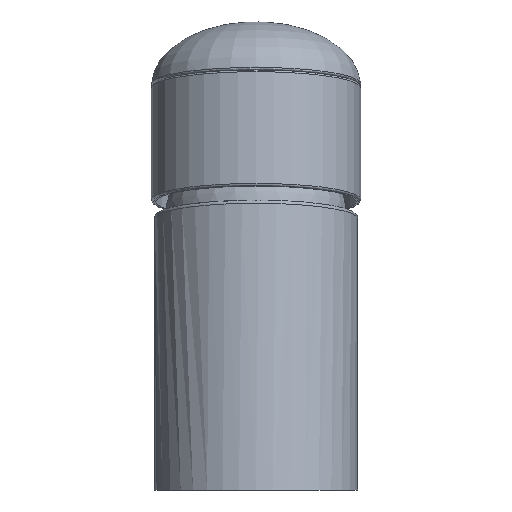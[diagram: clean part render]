
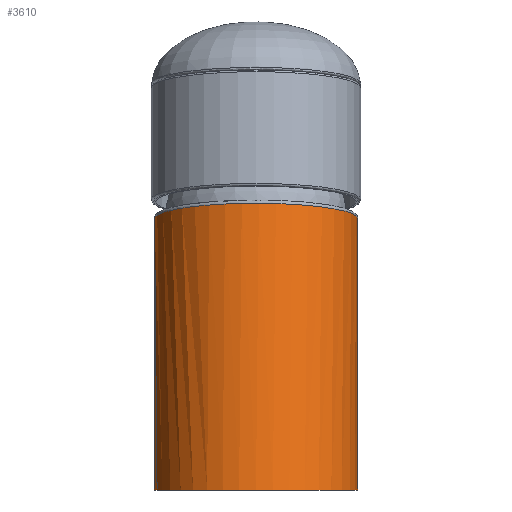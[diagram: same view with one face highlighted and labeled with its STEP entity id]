
A CAD part, left-side view. The second image highlights one B-rep face of the part: STEP entity #3610.
In plain terms, the highlighted free-form (B-spline) face has degree [3, 1] with [10, 2] control points.
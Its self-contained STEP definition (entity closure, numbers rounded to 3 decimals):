
#3610=ADVANCED_FACE('',(#10298),#10300,.T.);
#10298=FACE_BOUND('',#10299,.T.);
#10299=EDGE_LOOP('',(#16178,#16179,#16180,#16181));
#10300=(BOUNDED_SURFACE()B_SPLINE_SURFACE(3,1,(
(#10301,#10302),
(#10303,#10304),
(#10305,#10306),
(#10307,#10308),
(#10309,#10310),
(#10311,#10312),
(#10313,#10314),
(#10315,#10316),
(#10317,#10318),
(#10319,#10320)),
.UNSPECIFIED.,.F.,.F.,.F.)B_SPLINE_SURFACE_WITH_KNOTS((4,3,3,4),
(2,2),
(0.,1.022,2.179,3.336),
(0.,0.775),
.UNSPECIFIED.)GEOMETRIC_REPRESENTATION_ITEM()RATIONAL_B_SPLINE_SURFACE((
(1.,1.),
(1.,1.),
(1.,1.),
(1.,1.),
(0.781,0.781),
(0.781,0.781),
(1.,1.),
(0.781,0.781),
(0.781,0.781),
(1.,1.)))REPRESENTATION_ITEM('')SURFACE());
#10301=CARTESIAN_POINT('',(34.008,21.102,0.));
#10302=CARTESIAN_POINT('',(44.781,21.102,68.459));
#10303=CARTESIAN_POINT('',(23.457,22.13,0.));
#10304=CARTESIAN_POINT('',(34.231,22.13,68.459));
#10305=CARTESIAN_POINT('',(12.907,23.158,0.));
#10306=CARTESIAN_POINT('',(23.68,23.158,68.459));
#10307=CARTESIAN_POINT('',(2.356,24.186,0.));
#10308=CARTESIAN_POINT('',(13.13,24.186,68.459));
#10309=CARTESIAN_POINT('',(-12.927,25.674,0.));
#10310=CARTESIAN_POINT('',(-2.154,25.674,68.459));
#10311=CARTESIAN_POINT('',(-24.3,15.356,0.));
#10312=CARTESIAN_POINT('',(-13.527,15.356,68.459));
#10313=CARTESIAN_POINT('',(-24.3,0.,0.));
#10314=CARTESIAN_POINT('',(-13.527,0.,68.459));
#10315=CARTESIAN_POINT('',(-24.3,-15.356,0.));
#10316=CARTESIAN_POINT('',(-13.527,-15.356,68.459));
#10317=CARTESIAN_POINT('',(-12.927,-25.674,0.));
#10318=CARTESIAN_POINT('',(-2.154,-25.674,68.459));
#10319=CARTESIAN_POINT('',(2.356,-24.186,0.));
#10320=CARTESIAN_POINT('',(13.13,-24.186,68.459));
#16178=ORIENTED_EDGE('',*,*,#17547,.F.);
#16179=ORIENTED_EDGE('',*,*,#17536,.F.);
#16180=ORIENTED_EDGE('',*,*,#17548,.F.);
#16181=ORIENTED_EDGE('',*,*,#17526,.T.);
#17526=EDGE_CURVE('',#18791,#18789,#18792,.T.);
#17536=EDGE_CURVE('',#18805,#18807,#18808,.T.);
#17547=EDGE_CURVE('',#18807,#18789,#18824,.T.);
#17548=EDGE_CURVE('',#18791,#18805,#18825,.F.);
#18789=VERTEX_POINT('',#22830);
#18791=VERTEX_POINT('',#22834);
#18792=LINE('',#22835,#22836);
#18805=VERTEX_POINT('',#23020);
#18807=VERTEX_POINT('',#23024);
#18808=LINE('',#23025,#23026);
#18824=B_SPLINE_CURVE_WITH_KNOTS('',3,
(#23201,#23202,#23203,#23204,#23205,#23206,#23207,#23208,#23209,#23210,#23211,#23212,
#23213,#23214,#23215,#23216,#23217,#23218,#23219,#23220,#23221,#23222,#23223,#23224,
#23225,#23226,#23227,#23228,#23229,#23230),
.UNSPECIFIED.,.F.,.F.,
(4,1,1,1,1,1,1,1,1,1,1,1,1,1,1,1,1,1,1,1,1,1,1,1,1,1,1,4),
(0.,0.045,0.085,0.12,0.156,0.193,
0.23,0.267,0.305,0.343,0.381,
0.42,0.459,0.498,0.537,0.576,
0.614,0.653,0.691,0.729,0.767,
0.804,0.842,0.878,0.915,0.95,
0.978,1.),
.UNSPECIFIED.);
#18825=CIRCLE('',#23231,24.3);
#22830=CARTESIAN_POINT('',(12.493,-24.186,64.412));
#22834=CARTESIAN_POINT('',(2.356,-24.186,0.));
#22835=CARTESIAN_POINT('',(2.356,-24.186,0.));
#22836=VECTOR('',#22837,1.);
#22837=DIRECTION('',(0.155,0.,0.988));
#23020=CARTESIAN_POINT('',(2.356,24.186,0.));
#23024=CARTESIAN_POINT('',(12.493,24.186,64.412));
#23025=CARTESIAN_POINT('',(2.356,24.186,0.));
#23026=VECTOR('',#23027,1.);
#23027=DIRECTION('',(0.155,0.,0.988));
#23201=CARTESIAN_POINT('',(12.493,24.186,64.412));
#23202=CARTESIAN_POINT('',(11.3,24.305,64.598));
#23203=CARTESIAN_POINT('',(9.052,24.354,64.947));
#23204=CARTESIAN_POINT('',(5.896,23.962,65.438));
#23205=CARTESIAN_POINT('',(3.051,23.233,65.88));
#23206=CARTESIAN_POINT('',(0.367,22.184,66.298));
#23207=CARTESIAN_POINT('',(-2.217,20.782,66.7));
#23208=CARTESIAN_POINT('',(-4.641,19.042,67.077));
#23209=CARTESIAN_POINT('',(-6.84,17.002,67.419));
#23210=CARTESIAN_POINT('',(-8.788,14.68,67.722));
#23211=CARTESIAN_POINT('',(-10.446,12.109,67.98));
#23212=CARTESIAN_POINT('',(-11.78,9.325,68.188));
#23213=CARTESIAN_POINT('',(-12.763,6.376,68.34));
#23214=CARTESIAN_POINT('',(-13.371,3.311,68.435));
#23215=CARTESIAN_POINT('',(-13.592,0.181,68.469));
#23216=CARTESIAN_POINT('',(-13.417,-2.958,68.442));
#23217=CARTESIAN_POINT('',(-12.849,-6.045,68.354));
#23218=CARTESIAN_POINT('',(-11.902,-9.021,68.206));
#23219=CARTESIAN_POINT('',(-10.597,-11.835,68.003));
#23220=CARTESIAN_POINT('',(-8.961,-14.444,67.749));
#23221=CARTESIAN_POINT('',(-7.027,-16.806,67.448));
#23222=CARTESIAN_POINT('',(-4.832,-18.886,67.107));
#23223=CARTESIAN_POINT('',(-2.415,-20.657,66.731));
#23224=CARTESIAN_POINT('',(0.178,-22.096,66.327));
#23225=CARTESIAN_POINT('',(2.903,-23.188,65.903));
#23226=CARTESIAN_POINT('',(5.684,-23.916,65.471));
#23227=CARTESIAN_POINT('',(8.313,-24.27,65.062));
#23228=CARTESIAN_POINT('',(10.579,-24.326,64.709));
#23229=CARTESIAN_POINT('',(11.914,-24.243,64.502));
#23230=CARTESIAN_POINT('',(12.493,-24.186,64.412));
#23231=AXIS2_PLACEMENT_3D('',#23232,#23233,#23234);
#23232=CARTESIAN_POINT('',(0.,0.,0.));
#23233=DIRECTION('',(0.,0.,1.));
#23234=DIRECTION('',(0.097,0.995,0.));
